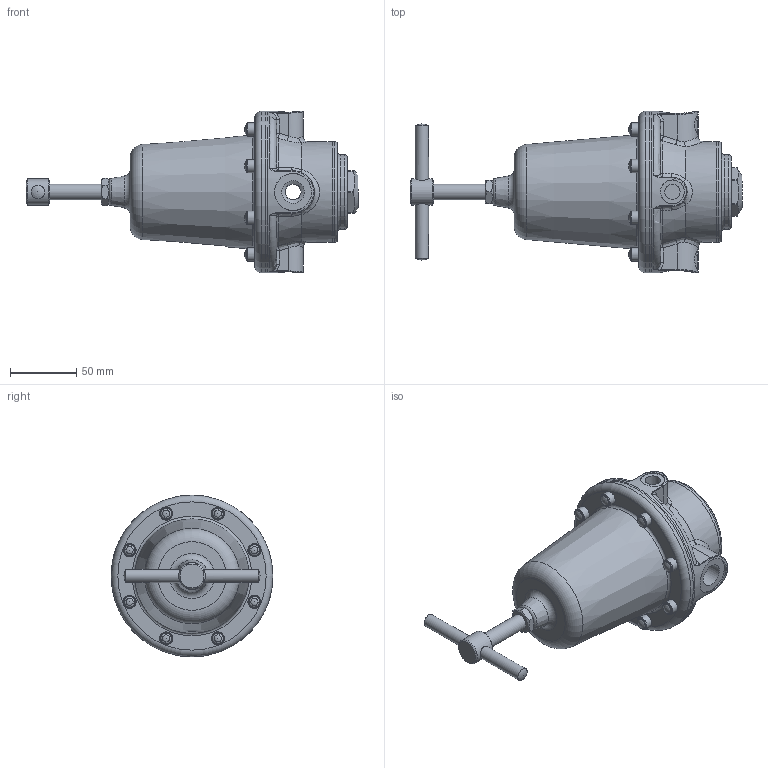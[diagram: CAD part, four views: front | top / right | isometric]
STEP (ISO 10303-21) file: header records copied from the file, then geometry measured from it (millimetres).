
FILE_DESCRIPTION(/* description */ (''),/* implementation_level */ '2;1');
FILE_NAME(/* name */ 'U:/AirCom-Produktdokumentation/Druckregler/REA/Zeichnungen/CAD-Aircom/3D/B-REA-A4x.step',/* time_stamp */ '2022-06-03T09:32:03+02:00',/* author */ (''),/* organization */ (''),/* preprocessor_version */ 'ST-DEVELOPER v19',/* originating_system */ 'Autodesk Translation Framework v11.7.0.108',/* authorisation */ '');
FILE_SCHEMA (('AUTOMOTIVE_DESIGN { 1 0 10303 214 3 1 1 }'));
Length unit declared in the file: millimetre
Products named in the file (9): DM3403231-01_12; GGZ0015.11.0184; GGZ0015.23.0034; DER0760.08.0025; MED1225.01.0015; DIN6304-M12-080; ISO 4035 - M12DIN EN; DIN 912 - M6 x 16; ADK-06-GRAU
Assembly tree (22 placements, depth 2):
  DM3403231-01_12
    GGZ0015.11.0184
    GGZ0015.23.0034
    DER0760.08.0025
    MED1225.01.0015
    DIN6304-M12-080
    ISO 4035 - M12DIN EN
    DIN 912 - M6 x 16  x8
    ADK-06-GRAU  x8
Bounding box: 250.62 x 122 x 122 mm (x, y, z)
Volume: 488914.9 mm3; surface area: 164035.9 mm2
Topology: 22 solids, 22 shells, 453 faces, 1029 edges, 657 vertices
Faces by surface type: plane 177, cylinder 143, bspline 48, cone 48, torus 26, sphere 11
Full cylindrical faces by diameter (mm): 3.5 x8, 4.917 x8, 5 x9, 5.2 x8, 6 x16, 6.6 x16, 8 x9, 10 x10, 10.106 x2, 11.445 x2, 12 x2, 15 x1, 17.294 x2, 18 x4, 20 x2, 28 x2, 56 x1, 65 x1, 66 x1, 66.5 x1, 68 x1, 69.5 x1, 76 x2, 78.8 x1, 122 x3
Entity records: 13026 total; most frequent: CARTESIAN_POINT 6273, ORIENTED_EDGE 1326, DIRECTION 1307, EDGE_CURVE 663, AXIS2_PLACEMENT_3D 555, VERTEX_POINT 426, EDGE_LOOP 373, CIRCLE 286
